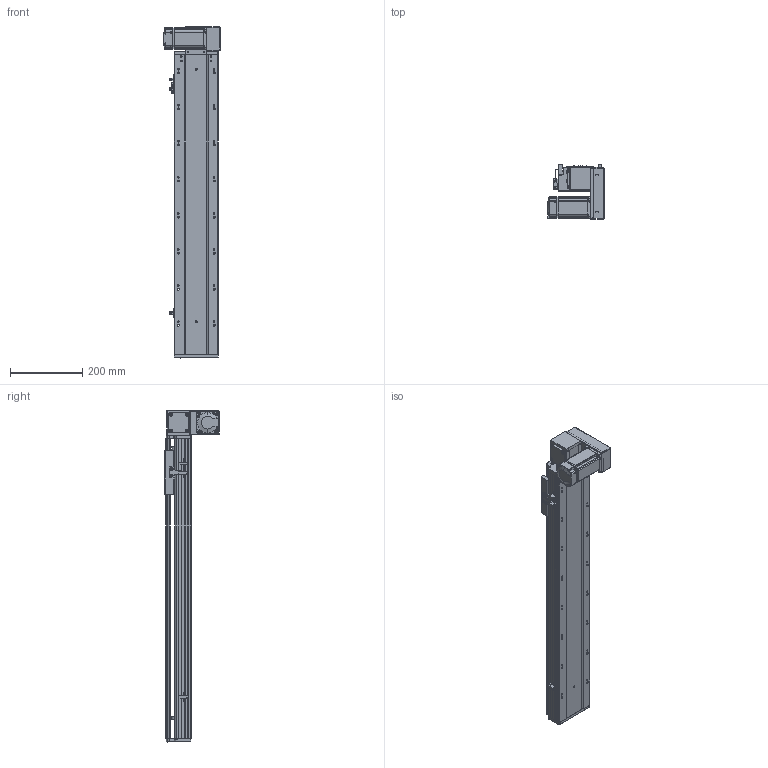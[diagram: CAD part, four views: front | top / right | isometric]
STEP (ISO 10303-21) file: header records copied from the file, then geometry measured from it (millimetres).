
FILE_DESCRIPTION (( 'STEP AP203' ), '1' );
FILE_NAME ('RY120-T-300-DR.SLDASM_600.step', '2021-03-01T03:35:02', ( '盈信电脑' ), ( '东莞市道滘镇水果街19号' ), 'SwSTEP 2.0', 'SolidWorks 2012', '' );
FILE_SCHEMA (( 'CONFIG_CONTROL_DESIGN' ));
Length unit declared in the file: millimetre
Products named in the file (17): RY120-T-300-DR.SLDASM_600; RY120-T蹟翐M4; RY120-T萇儂假蚾啣; RY120-T萇儂欶; RY120-T主同步轮轴承压盖; RY120-T翋肮祭盓傅釱; 15; 滅袉蝶18-10; RY120-T翋肮祭謫裔啣; RY120外置感应片(140共用）; RY120-T肮祭湍揤踡輸1; RY120-T肮祭湍揤踡輸2; 覜茼ん672; RY120肮祭湍臏賑輸; RY120-T-300-DR倰第奻裔啣_600; RY120綴裔啣; RY120-T-300-DR倰第菁釱_600
Assembly tree (22 placements, depth 2):
  RY120-T-300-DR.SLDASM_600
    RY120-T-300-DR倰第菁釱_600
    RY120-T-300-DR倰第奻裔啣_600
    RY120肮祭湍臏賑輸
    RY120綴裔啣
    覜茼ん672  x3
    RY120外置感应片(140共用）
    RY120-T肮祭湍揤踡輸1
    RY120-T肮祭湍揤踡輸2
    RY120-T翋肮祭盓傅釱
    滅袉蝶18-10  x2
    RY120-T翋肮祭謫裔啣
    15
    RY120-T萇儂假蚾啣
    RY120-T蹟翐M4  x4
    RY120-T萇儂欶
    RY120-T主同步轮轴承压盖
Bounding box: 155.5 x 150 x 921 mm (x, y, z)
Volume: 2737352.8 mm3; surface area: 1004559.7 mm2
Topology: 23 solids, 23 shells, 2806 faces, 7672 edges, 4938 vertices
Faces by surface type: plane 1422, cylinder 1068, cone 227, bspline 89
Entity records: 89907 total; most frequent: CARTESIAN_POINT 23180, ORIENTED_EDGE 13816, DIRECTION 12974, EDGE_CURVE 6908, VERTEX_POINT 4525, AXIS2_PLACEMENT_3D 4335, VECTOR 4304, LINE 4304
